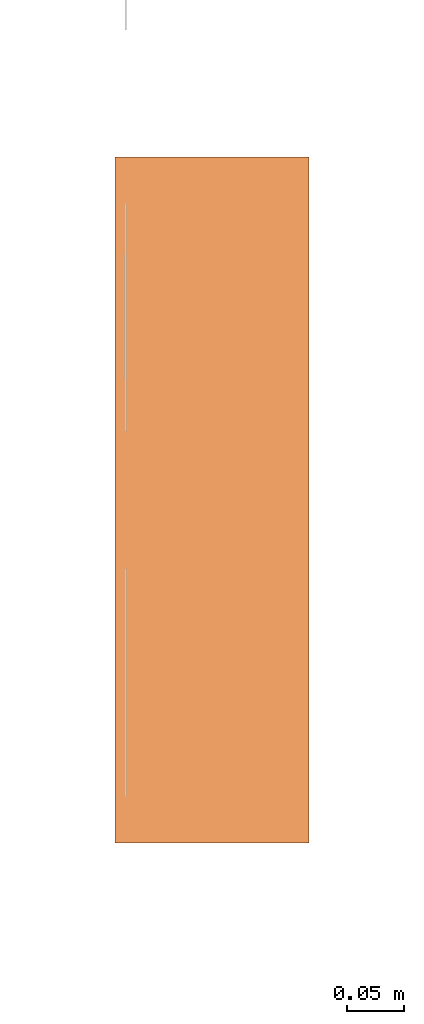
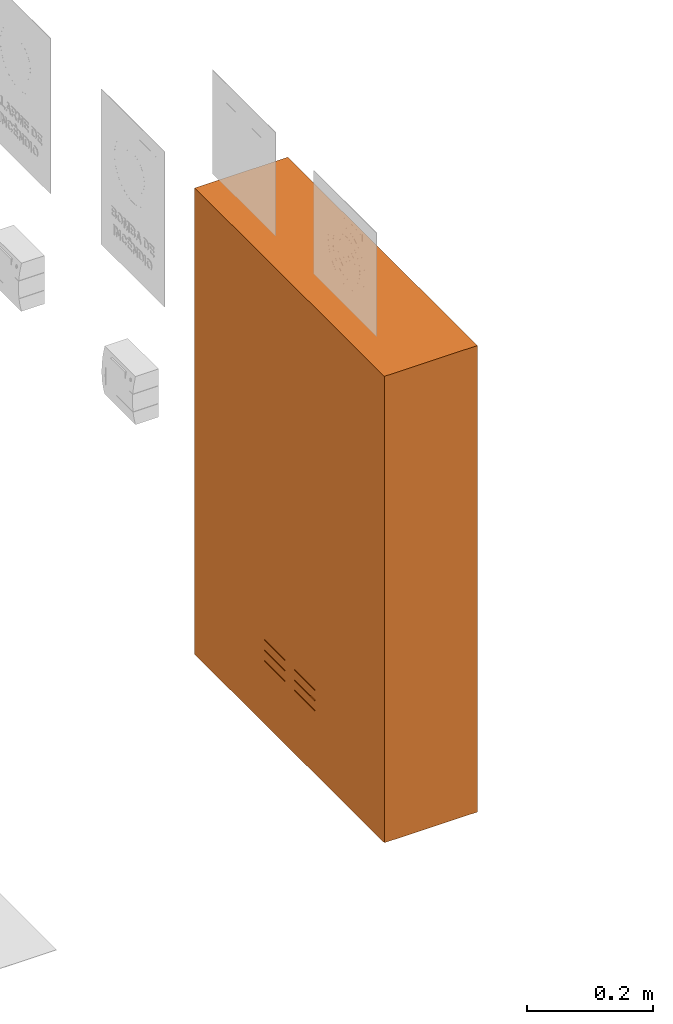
# One storey, part 10 of 119: 1 proxy.
"""IFC2X3 building model written with IfcOpenShell, lengths in metres."""

from ifc_helpers import new_model, entity, si_unit, converted_unit, derived_unit, direction, frame, origin, place, context, subcontext, project, spatial, face_set, surface_model, source, transform, mapped, material, material_list, type_object, type_shapes, element, save


model = new_model("IFC2X3")

# Units and contexts
model_context = context("Model", 3, precision=1e-05, world=origin(), true_north=direction((6.12303176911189e-17, 1.0)))
body_context = subcontext(model_context, "Body", "Model", "MODEL_VIEW")
ifc_project = project(units=[si_unit("LENGTHUNIT", "METRE"), si_unit("AREAUNIT", "SQUARE_METRE"), si_unit("VOLUMEUNIT", "CUBIC_METRE"), converted_unit("PLANEANGLEUNIT", "DEGREE", entity("IfcRatioMeasure", 0.0174532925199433), si_unit("PLANEANGLEUNIT", "RADIAN"), dimensions=[0, 0, 0, 0, 0, 0, 0]), si_unit("MASSUNIT", "GRAM", prefix="KILO"), derived_unit("MASSDENSITYUNIT", [(si_unit("MASSUNIT", "GRAM", prefix="KILO"), 1), (si_unit("LENGTHUNIT", "METRE"), -3)]), derived_unit("MOMENTOFINERTIAUNIT", [(si_unit("LENGTHUNIT", "METRE"), 4)]), si_unit("TIMEUNIT", "SECOND"), si_unit("FREQUENCYUNIT", "HERTZ"), si_unit("THERMODYNAMICTEMPERATUREUNIT", "DEGREE_CELSIUS"), derived_unit("THERMALTRANSMITTANCEUNIT", [(si_unit("MASSUNIT", "GRAM", prefix="KILO"), 1), (si_unit("THERMODYNAMICTEMPERATUREUNIT", "KELVIN"), -1), (si_unit("TIMEUNIT", "SECOND"), -3)]), derived_unit("VOLUMETRICFLOWRATEUNIT", [(si_unit("LENGTHUNIT", "METRE"), 3), (si_unit("TIMEUNIT", "SECOND"), -1)]), si_unit("ELECTRICCURRENTUNIT", "AMPERE"), si_unit("ELECTRICVOLTAGEUNIT", "VOLT"), si_unit("POWERUNIT", "WATT"), si_unit("FORCEUNIT", "NEWTON", prefix="KILO"), si_unit("ILLUMINANCEUNIT", "LUX"), si_unit("LUMINOUSFLUXUNIT", "LUMEN"), si_unit("LUMINOUSINTENSITYUNIT", "CANDELA"), derived_unit("USERDEFINED", [(si_unit("MASSUNIT", "GRAM", prefix="KILO"), -1), (si_unit("LENGTHUNIT", "METRE"), -2), (si_unit("TIMEUNIT", "SECOND"), 3), (si_unit("LUMINOUSFLUXUNIT", "LUMEN"), 1)]), derived_unit("LINEARVELOCITYUNIT", [(si_unit("LENGTHUNIT", "METRE"), 1), (si_unit("TIMEUNIT", "SECOND"), -1)]), si_unit("PRESSUREUNIT", "PASCAL"), derived_unit("USERDEFINED", [(si_unit("LENGTHUNIT", "METRE"), -2), (si_unit("MASSUNIT", "GRAM", prefix="KILO"), 1), (si_unit("TIMEUNIT", "SECOND"), -2)]), derived_unit("LINEARFORCEUNIT", [(si_unit("MASSUNIT", "GRAM", prefix="KILO"), 1), (si_unit("LENGTHUNIT", "METRE"), 1), (si_unit("TIMEUNIT", "SECOND"), -2), (si_unit("LENGTHUNIT", "METRE"), -1)]), derived_unit("PLANARFORCEUNIT", [(si_unit("MASSUNIT", "GRAM", prefix="KILO"), 1), (si_unit("LENGTHUNIT", "METRE"), 1), (si_unit("TIMEUNIT", "SECOND"), -2), (si_unit("LENGTHUNIT", "METRE"), -2)])], contexts=[model_context])

# Site, building, storey
site_placement = place(None, origin())
site = spatial("IfcSite", under=ifc_project, at=site_placement, Name="Default", CompositionType="ELEMENT")
building_placement = place(site_placement, origin())
building = spatial("IfcBuilding", under=site, at=building_placement, CompositionType="ELEMENT")
storey_placement = place(building_placement, origin())
storey = spatial("IfcBuildingStorey", under=building, at=storey_placement, Name="PAV. 01 - TÉRREO", CompositionType="ELEMENT", Elevation=0.0)

# Proxy
ifc_material_1 = material(Name="Pintura branca")
ifc_material_2 = material(Name="Vidro")
ifc_material_3 = material(Name="Pintura Metalica Vermelha")
ifc_material_list_1 = material_list([ifc_material_1, ifc_material_2, ifc_material_3])
ifc_material_list_2 = material_list([ifc_material_3, ifc_material_1])
building_element_proxy_type = type_object("IfcBuildingElementProxyType", Name="Equipamento - E07 - Hidrante:Hidrante simples embutido - requinte 2.1/2 - 38 mm - 30m", PredefinedType="NOTDEFINED", material=ifc_material_list_2)
shared_shape = source(origin(), body_context, "Body", "SurfaceModel", [
    surface_model("IfcFaceBasedSurfaceModel", [(0.234125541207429, 0.00999999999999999, 0.69041529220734), (0.236636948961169, 0.00999999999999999, 0.69041529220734), (0.236636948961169, 0.00999999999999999, 0.710506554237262), (0.234125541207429, 0.00999999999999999, 0.710506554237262), (0.241659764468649, 0.00999999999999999, 0.69041529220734), (0.244171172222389, 0.00999999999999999, 0.69041529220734), (0.244171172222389, 0.00999999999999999, 0.706337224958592), (0.254668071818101, 0.00999999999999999, 0.69041529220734), (0.257356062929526, 0.00999999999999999, 0.69041529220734), (0.257356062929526, 0.00999999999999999, 0.710506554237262), (0.254844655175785, 0.00999999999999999, 0.710506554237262), (0.254844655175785, 0.00999999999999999, 0.69458952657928), (0.244347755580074, 0.00999999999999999, 0.710506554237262), (0.241659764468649, 0.00999999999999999, 0.710506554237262), (0.27587769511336, 0.00999999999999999, 0.697557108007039), (0.273746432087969, 0.00999999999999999, 0.693858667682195), (0.269903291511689, 0.00999999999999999, 0.692612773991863), (0.266437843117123, 0.00999999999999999, 0.693527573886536), (0.264078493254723, 0.00999999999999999, 0.696291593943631), (0.263320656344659, 0.00999999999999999, 0.70061788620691), (0.263960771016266, 0.00999999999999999, 0.704350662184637), (0.2661803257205, 0.00999999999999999, 0.707234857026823), (0.270109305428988, 0.00999999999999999, 0.708309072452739), (0.273503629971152, 0.00999999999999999, 0.707340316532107), (0.275563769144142, 0.00999999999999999, 0.704252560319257), (0.278075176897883, 0.00999999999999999, 0.704850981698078), (0.275237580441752, 0.00999999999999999, 0.709255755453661), (0.270207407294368, 0.00999999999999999, 0.71082048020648), (0.265380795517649, 0.00999999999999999, 0.709611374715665), (0.261998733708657, 0.00999999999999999, 0.706072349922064), (0.260809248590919, 0.00999999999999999, 0.700612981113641), (0.261861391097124, 0.00999999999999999, 0.69524190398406), (0.264927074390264, 0.00999999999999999, 0.69142083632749), (0.270153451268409, 0.00999999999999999, 0.690101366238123), (0.275411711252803, 0.00999999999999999, 0.691845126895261), (0.2783891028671, 0.00999999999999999, 0.696909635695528), (0.289376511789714, 0.00999999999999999, 0.714273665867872), (0.29110310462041, 0.00999999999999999, 0.711762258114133), (0.29361451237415, 0.00999999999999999, 0.711762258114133), (0.290632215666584, 0.00999999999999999, 0.715529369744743), (0.288120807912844, 0.00999999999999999, 0.715529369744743), (0.285452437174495, 0.00999999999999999, 0.711762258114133), (0.287963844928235, 0.00999999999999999, 0.711762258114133), (0.300363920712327, 0.00999999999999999, 0.69041529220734), (0.302875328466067, 0.00999999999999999, 0.69041529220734), (0.302875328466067, 0.00999999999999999, 0.706337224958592), (0.313372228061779, 0.00999999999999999, 0.69041529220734), (0.316060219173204, 0.00999999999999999, 0.69041529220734), (0.316060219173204, 0.00999999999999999, 0.710506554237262), (0.313548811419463, 0.00999999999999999, 0.710506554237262), (0.313548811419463, 0.00999999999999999, 0.69458952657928), (0.303051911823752, 0.00999999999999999, 0.710506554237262), (0.300363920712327, 0.00999999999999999, 0.710506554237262), (0.320455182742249, 0.00999999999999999, 0.69041529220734), (0.327719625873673, 0.00999999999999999, 0.69041529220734), (0.330949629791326, 0.00999999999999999, 0.690758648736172), (0.333350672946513, 0.00999999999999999, 0.691766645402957), (0.335185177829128, 0.00999999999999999, 0.693588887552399), (0.336558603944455, 0.00999999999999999, 0.696514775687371), (0.337093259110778, 0.00999999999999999, 0.70056883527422), (0.336303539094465, 0.00999999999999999, 0.705346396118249), (0.333924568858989, 0.00999999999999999, 0.708779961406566), (0.330971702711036, 0.00999999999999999, 0.71021715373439), (0.32738607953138, 0.00999999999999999, 0.710506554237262), (0.320455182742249, 0.00999999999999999, 0.710506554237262), (0.322966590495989, 0.00999999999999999, 0.692926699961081), (0.322966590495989, 0.00999999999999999, 0.707995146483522), (0.327341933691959, 0.00999999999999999, 0.707995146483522), (0.33090303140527, 0.00999999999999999, 0.707592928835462), (0.333510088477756, 0.00999999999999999, 0.705366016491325), (0.334581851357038, 0.00999999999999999, 0.700608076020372), (0.334034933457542, 0.00999999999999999, 0.696809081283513), (0.332506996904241, 0.00999999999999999, 0.694314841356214), (0.330643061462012, 0.00999999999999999, 0.693289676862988), (0.327410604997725, 0.00999999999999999, 0.692926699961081), (0.340860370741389, 0.00999999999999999, 0.69041529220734), (0.343371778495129, 0.00999999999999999, 0.69041529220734), (0.343371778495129, 0.00999999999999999, 0.710506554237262), (0.340860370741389, 0.00999999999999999, 0.710506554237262), (0.347452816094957, 0.00999999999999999, 0.700196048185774), (0.348600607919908, 0.00999999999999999, 0.695195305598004), (0.351975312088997, 0.00999999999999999, 0.691467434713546), (0.357027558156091, 0.00999999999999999, 0.690101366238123), (0.361890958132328, 0.00999999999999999, 0.691337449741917), (0.365373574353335, 0.00999999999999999, 0.694977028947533), (0.366602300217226, 0.00999999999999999, 0.700426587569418), (0.365434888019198, 0.00999999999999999, 0.705802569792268), (0.362040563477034, 0.00999999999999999, 0.709496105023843), (0.357042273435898, 0.00999999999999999, 0.71082048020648), (0.350130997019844, 0.00999999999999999, 0.708000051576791), (0.349964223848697, 0.00999999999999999, 0.700171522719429), (0.35205869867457, 0.00999999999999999, 0.706432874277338), (0.357056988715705, 0.00999999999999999, 0.708309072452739), (0.360743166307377, 0.00999999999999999, 0.707335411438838), (0.363237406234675, 0.00999999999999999, 0.704591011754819), (0.364090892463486, 0.00999999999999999, 0.700446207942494), (0.362096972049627, 0.00999999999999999, 0.694653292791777), (0.357012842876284, 0.00999999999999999, 0.692612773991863), (0.351972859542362, 0.00999999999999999, 0.694633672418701), (0.281842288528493, 0.00999999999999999, 0.69041529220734), (0.296596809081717, 0.00999999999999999, 0.69041529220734), (0.296596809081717, 0.00999999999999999, 0.692926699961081), (0.284353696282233, 0.00999999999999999, 0.692926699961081), (0.284353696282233, 0.00999999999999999, 0.699519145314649), (0.295655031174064, 0.00999999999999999, 0.699519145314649), (0.295655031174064, 0.00999999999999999, 0.702030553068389), (0.284353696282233, 0.00999999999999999, 0.702030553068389), (0.284353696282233, 0.00999999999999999, 0.707995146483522), (0.296282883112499, 0.00999999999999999, 0.707995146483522), (0.296282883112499, 0.00999999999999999, 0.710506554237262), (0.281842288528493, 0.00999999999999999, 0.710506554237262)], [face_set([[[0, 1, 2, 3]]]), face_set([[[4, 5, 6, 7, 8, 9, 10, 11, 12, 13]]]), face_set([[[14, 15, 16, 17, 18, 19, 20, 21, 22, 23, 24, 25, 26, 27, 28, 29, 30, 31, 32, 33, 34, 35]]]), face_set([[[36, 37, 38, 39, 40, 41, 42]]]), face_set([[[43, 44, 45, 46, 47, 48, 49, 50, 51, 52]]]), face_set([[[53, 54, 55, 56, 57, 58, 59, 60, 61, 62, 63, 64], [65, 66, 67, 68, 69, 70, 71, 72, 73, 74]]]), face_set([[[75, 76, 77, 78]]]), face_set([[[79, 80, 81, 82, 83, 84, 85, 86, 87, 88, 89], [90, 91, 92, 93, 94, 95, 96, 97, 98]]]), face_set([[[99, 100, 101, 102, 103, 104, 105, 106, 107, 108, 109, 110]]])]),
    surface_model("IfcFaceBasedSurfaceModel", [(0.375000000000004, 0.0, 0.700857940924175), (0.372444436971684, 0.0, 0.681446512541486), (0.364951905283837, 0.0, 0.663357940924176), (0.353033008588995, 0.0, 0.647824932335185), (0.337500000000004, 0.0, 0.635906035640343), (0.319411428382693, 0.0, 0.628413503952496), (0.300000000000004, 0.0, 0.625857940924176), (0.280588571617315, 0.0, 0.628413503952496), (0.262500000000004, 0.0, 0.635906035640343), (0.246966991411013, 0.0, 0.647824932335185), (0.235048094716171, 0.0, 0.663357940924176), (0.227555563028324, 0.0, 0.681446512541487), (0.225000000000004, 0.0, 0.700857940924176), (0.227555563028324, 0.0, 0.720269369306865), (0.235048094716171, 0.0, 0.738357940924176), (0.246966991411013, 0.0, 0.753890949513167), (0.262500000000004, 0.0, 0.765809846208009), (0.280588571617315, 0.0, 0.773302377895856), (0.300000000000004, 0.0, 0.775857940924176), (0.319411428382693, 0.0, 0.773302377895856), (0.337500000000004, 0.0, 0.765809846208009), (0.353033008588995, 0.0, 0.753890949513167), (0.364951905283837, 0.0, 0.738357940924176), (0.372444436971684, 0.0, 0.720269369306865), (0.375000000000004, 0.00999999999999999, 0.700857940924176), (0.372444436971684, 0.00999999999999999, 0.681446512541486), (0.364951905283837, 0.00999999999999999, 0.663357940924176), (0.353033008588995, 0.00999999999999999, 0.647824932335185), (0.337500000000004, 0.00999999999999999, 0.635906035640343), (0.319411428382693, 0.00999999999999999, 0.628413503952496), (0.300000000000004, 0.00999999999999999, 0.625857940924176), (0.280588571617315, 0.00999999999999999, 0.628413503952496), (0.262500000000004, 0.00999999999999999, 0.635906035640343), (0.246966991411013, 0.00999999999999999, 0.647824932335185), (0.235048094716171, 0.00999999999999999, 0.663357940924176), (0.227555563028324, 0.00999999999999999, 0.681446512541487), (0.225000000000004, 0.00999999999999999, 0.700857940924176), (0.227555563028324, 0.00999999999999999, 0.720269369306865), (0.235048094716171, 0.00999999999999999, 0.738357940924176), (0.246966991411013, 0.00999999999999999, 0.753890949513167), (0.262500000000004, 0.00999999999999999, 0.765809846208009), (0.280588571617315, 0.00999999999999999, 0.773302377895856), (0.300000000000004, 0.00999999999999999, 0.775857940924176), (0.319411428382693, 0.00999999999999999, 0.773302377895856), (0.337500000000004, 0.00999999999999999, 0.765809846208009), (0.353033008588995, 0.00999999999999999, 0.753890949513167), (0.364951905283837, 0.00999999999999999, 0.738357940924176), (0.372444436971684, 0.00999999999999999, 0.720269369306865)], [face_set([[[0, 1, 2, 3, 4, 5, 6, 7, 8, 9, 10, 11, 12, 13, 14, 15, 16, 17, 18, 19, 20, 21, 22, 23]], [[24, 25, 26, 27, 28, 29, 30, 31, 32, 33, 34, 35, 36, 37, 38, 39, 40, 41, 42, 43, 44, 45, 46, 47]], [[36, 35, 11, 12]], [[35, 34, 10, 11]], [[33, 32, 8, 9]], [[34, 33, 9, 10]], [[32, 31, 7, 8]], [[6, 7, 31, 30]], [[30, 29, 5, 6]], [[29, 28, 4, 5]], [[27, 26, 2, 3]], [[28, 27, 3, 4]], [[26, 25, 1, 2]], [[0, 1, 25, 24]], [[24, 47, 23, 0]], [[47, 46, 22, 23]], [[45, 44, 20, 21]], [[46, 45, 21, 22]], [[44, 43, 19, 20]], [[18, 19, 43, 42]], [[42, 41, 17, 18]], [[41, 40, 16, 17]], [[39, 38, 14, 15]], [[40, 39, 15, 16]], [[38, 37, 13, 14]], [[12, 13, 37, 36]]])]),
    surface_model("IfcFaceBasedSurfaceModel", [(0.567500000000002, 0.0, 0.868357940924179), (0.567500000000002, 0.0, 0.0333579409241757), (0.032500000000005, 0.0, 0.0333579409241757), (0.032500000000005, 0.0, 0.868357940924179), (0.375000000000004, 0.0, 0.700857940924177), (0.372444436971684, 0.0, 0.681446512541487), (0.364951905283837, 0.0, 0.663357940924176), (0.353033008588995, 0.0, 0.647824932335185), (0.337500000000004, 0.0, 0.635906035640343), (0.319411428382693, 0.0, 0.628413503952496), (0.300000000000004, 0.0, 0.625857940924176), (0.280588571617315, 0.0, 0.628413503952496), (0.262500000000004, 0.0, 0.635906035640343), (0.246966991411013, 0.0, 0.647824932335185), (0.235048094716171, 0.0, 0.663357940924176), (0.227555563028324, 0.0, 0.681446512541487), (0.225000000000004, 0.0, 0.700857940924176), (0.227555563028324, 0.0, 0.720269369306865), (0.235048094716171, 0.0, 0.738357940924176), (0.246966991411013, 0.0, 0.753890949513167), (0.262500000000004, 0.0, 0.765809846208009), (0.280588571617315, 0.0, 0.773302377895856), (0.300000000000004, 0.0, 0.775857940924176), (0.319411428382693, 0.0, 0.773302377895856), (0.337500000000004, 0.0, 0.765809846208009), (0.353033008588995, 0.0, 0.753890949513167), (0.364951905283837, 0.0, 0.738357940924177), (0.372444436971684, 0.0, 0.720269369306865), (0.285000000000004, 0.0, 0.162857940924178), (0.220000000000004, 0.0, 0.162857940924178), (0.220000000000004, 0.0, 0.160857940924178), (0.285000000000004, 0.0, 0.160857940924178), (0.285000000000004, 0.0, 0.122857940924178), (0.220000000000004, 0.0, 0.122857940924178), (0.220000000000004, 0.0, 0.120857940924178), (0.285000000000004, 0.0, 0.120857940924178), (0.285000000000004, 0.0, 0.142857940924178), (0.220000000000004, 0.0, 0.142857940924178), (0.220000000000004, 0.0, 0.140857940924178), (0.285000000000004, 0.0, 0.140857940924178), (0.380000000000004, 0.0, 0.162857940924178), (0.315000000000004, 0.0, 0.162857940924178), (0.315000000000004, 0.0, 0.160857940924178), (0.380000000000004, 0.0, 0.160857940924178), (0.380000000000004, 0.0, 0.122857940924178), (0.315000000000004, 0.0, 0.122857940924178), (0.315000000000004, 0.0, 0.120857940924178), (0.380000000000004, 0.0, 0.120857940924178), (0.380000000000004, 0.0, 0.142857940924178), (0.315000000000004, 0.0, 0.142857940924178), (0.315000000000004, 0.0, 0.140857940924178), (0.380000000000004, 0.0, 0.140857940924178), (0.567500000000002, 0.00999999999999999, 0.868357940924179), (0.567500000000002, 0.00999999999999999, 0.0333579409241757), (0.032500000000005, 0.00999999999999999, 0.0333579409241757), (0.032500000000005, 0.00999999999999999, 0.868357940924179), (0.375000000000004, 0.00999999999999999, 0.700857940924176), (0.372444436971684, 0.00999999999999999, 0.681446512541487), (0.364951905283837, 0.00999999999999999, 0.663357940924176), (0.353033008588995, 0.00999999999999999, 0.647824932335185), (0.337500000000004, 0.00999999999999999, 0.635906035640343), (0.319411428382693, 0.00999999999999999, 0.628413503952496), (0.300000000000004, 0.00999999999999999, 0.625857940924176), (0.280588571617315, 0.00999999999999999, 0.628413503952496), (0.262500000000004, 0.00999999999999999, 0.635906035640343), (0.246966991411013, 0.00999999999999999, 0.647824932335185), (0.235048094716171, 0.00999999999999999, 0.663357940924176), (0.227555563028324, 0.00999999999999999, 0.681446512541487), (0.225000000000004, 0.00999999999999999, 0.700857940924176), (0.227555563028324, 0.00999999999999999, 0.720269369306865), (0.235048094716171, 0.00999999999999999, 0.738357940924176), (0.246966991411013, 0.00999999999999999, 0.753890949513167), (0.262500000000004, 0.00999999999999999, 0.765809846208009), (0.280588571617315, 0.00999999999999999, 0.773302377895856), (0.300000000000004, 0.00999999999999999, 0.775857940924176), (0.319411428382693, 0.00999999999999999, 0.773302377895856), (0.337500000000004, 0.00999999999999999, 0.765809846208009), (0.353033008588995, 0.00999999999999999, 0.753890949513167), (0.364951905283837, 0.00999999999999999, 0.738357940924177), (0.372444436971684, 0.00999999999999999, 0.720269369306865), (0.285000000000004, 0.00999999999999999, 0.162857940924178), (0.220000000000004, 0.00999999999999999, 0.162857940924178), (0.220000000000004, 0.00999999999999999, 0.160857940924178), (0.285000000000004, 0.00999999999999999, 0.160857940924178), (0.285000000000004, 0.00999999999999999, 0.122857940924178), (0.220000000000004, 0.00999999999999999, 0.122857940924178), (0.220000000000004, 0.00999999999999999, 0.120857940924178), (0.285000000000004, 0.00999999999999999, 0.120857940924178), (0.285000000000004, 0.00999999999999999, 0.142857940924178), (0.220000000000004, 0.00999999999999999, 0.142857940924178), (0.220000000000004, 0.00999999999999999, 0.140857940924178), (0.285000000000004, 0.00999999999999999, 0.140857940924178), (0.380000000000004, 0.00999999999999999, 0.162857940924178), (0.315000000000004, 0.00999999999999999, 0.162857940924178), (0.315000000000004, 0.00999999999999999, 0.160857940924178), (0.380000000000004, 0.00999999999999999, 0.160857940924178), (0.380000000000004, 0.00999999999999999, 0.122857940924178), (0.315000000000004, 0.00999999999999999, 0.122857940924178), (0.315000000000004, 0.00999999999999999, 0.120857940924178), (0.380000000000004, 0.00999999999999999, 0.120857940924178), (0.380000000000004, 0.00999999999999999, 0.142857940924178), (0.315000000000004, 0.00999999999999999, 0.142857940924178), (0.315000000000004, 0.00999999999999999, 0.140857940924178), (0.380000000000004, 0.00999999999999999, 0.140857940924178), (0.010000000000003, 0.160000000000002, 0.890857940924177), (0.010000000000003, 0.160000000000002, 0.0108579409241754), (0.590000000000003, 0.160000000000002, 0.0108579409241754), (0.590000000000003, 0.160000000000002, 0.890857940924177), (0.6, 0.170000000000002, 0.900857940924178), (0.0, 0.170000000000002, 0.900857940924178), (0.0, 0.170000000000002, 0.0), (0.6, 0.170000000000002, 0.0), (0.6, 0.0, 0.900857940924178), (0.0, 0.0, 0.900857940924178), (0.0, 0.0, 0.0), (0.6, 0.0, 0.0), (0.010000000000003, 0.0100000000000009, 0.0108579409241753), (0.010000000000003, 0.0100000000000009, 0.890857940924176), (0.590000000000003, 0.0100000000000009, 0.890857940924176), (0.590000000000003, 0.0100000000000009, 0.0108579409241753), (0.5675, 0.0, 0.868357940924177), (0.5675, 0.0, 0.0333579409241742), (0.0325000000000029, 0.0, 0.0333579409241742), (0.0325000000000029, 0.0, 0.868357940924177), (0.5675, 0.0100000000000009, 0.868357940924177), (0.5675, 0.0100000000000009, 0.0333579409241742), (0.0325000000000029, 0.0100000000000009, 0.0333579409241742), (0.0325000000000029, 0.0100000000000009, 0.868357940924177)], [face_set([[[0, 1, 2, 3], [4, 5, 6, 7, 8, 9, 10, 11, 12, 13, 14, 15, 16, 17, 18, 19, 20, 21, 22, 23, 24, 25, 26, 27], [28, 29, 30, 31], [32, 33, 34, 35], [36, 37, 38, 39], [40, 41, 42, 43], [44, 45, 46, 47], [48, 49, 50, 51]], [[52, 53, 54, 55], [56, 57, 58, 59, 60, 61, 62, 63, 64, 65, 66, 67, 68, 69, 70, 71, 72, 73, 74, 75, 76, 77, 78, 79], [80, 81, 82, 83], [84, 85, 86, 87], [88, 89, 90, 91], [92, 93, 94, 95], [96, 97, 98, 99], [100, 101, 102, 103]], [[0, 1, 53, 52]], [[1, 2, 54, 53]], [[2, 54, 55, 3]], [[3, 55, 52, 0]], [[69, 17, 18, 70]], [[68, 16, 17, 69]], [[72, 20, 21, 73]], [[71, 19, 20, 72]], [[70, 18, 19, 71]], [[22, 74, 73, 21]], [[76, 24, 25, 77]], [[75, 23, 24, 76]], [[79, 27, 4, 56]], [[78, 26, 27, 79]], [[77, 25, 26, 78]], [[74, 22, 23, 75]], [[56, 4, 5, 57]], [[58, 6, 5, 57]], [[60, 8, 7, 59]], [[59, 7, 6, 58]], [[61, 9, 8, 60]], [[9, 61, 62, 10]], [[64, 12, 11, 63]], [[65, 13, 12, 64]], [[67, 15, 14, 66]], [[66, 14, 13, 65]], [[67, 15, 16, 68]], [[63, 11, 10, 62]], [[31, 83, 80, 28]], [[30, 82, 83, 31]], [[29, 30, 82, 81]], [[28, 29, 81, 80]], [[35, 87, 84, 32]], [[34, 86, 87, 35]], [[33, 34, 86, 85]], [[32, 33, 85, 84]], [[39, 91, 88, 36]], [[38, 90, 91, 39]], [[37, 38, 90, 89]], [[36, 37, 89, 88]], [[43, 95, 92, 40]], [[42, 94, 95, 43]], [[41, 42, 94, 93]], [[40, 41, 93, 92]], [[47, 99, 96, 44]], [[46, 98, 99, 47]], [[45, 46, 98, 97]], [[44, 45, 97, 96]], [[51, 103, 100, 48]], [[50, 102, 103, 51]], [[49, 50, 102, 101]], [[48, 49, 101, 100]]]), face_set([[[104, 105, 106, 107]], [[108, 109, 110, 111]], [[108, 112, 113, 109]], [[113, 109, 110, 114]], [[114, 110, 111, 115]], [[115, 111, 108, 112]], [[116, 105, 104, 117]], [[117, 104, 107, 118]], [[118, 119, 106, 107]], [[105, 106, 119, 116]], [[112, 113, 114, 115], [120, 121, 122, 123]], [[116, 119, 118, 117], [124, 125, 126, 127]], [[121, 125, 124, 120]], [[122, 126, 125, 121]], [[123, 122, 126, 127]], [[120, 123, 127, 124]]])]),
])
type_shapes(building_element_proxy_type, [shared_shape])
proxy_placement = place(storey_placement, frame((48.3140605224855, 11.4833819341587, 0.850000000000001), z_axis=(0.0, 0.0, 1.0), x_axis=(0.0, -1.0, 0.0)))
element("IfcBuildingElementProxy", 1, at=proxy_placement, inside=storey, type_object=building_element_proxy_type, material=ifc_material_list_1, Name="Equipamento - E07 - Hidrante:Hidrante simples embutido - requinte 2.1/2 - 38 mm - 30m", ObjectType="Equipamento - E07 - Hidrante:Hidrante simples embutido - requinte 2.1/2 - 38 mm - 30m", context=body_context, shape_type="MappedRepresentation", body=[
    mapped(shared_shape, transform((0.0, 0.0, 0.0), scale=1.0)),
])

save(model, "model.ifc")
